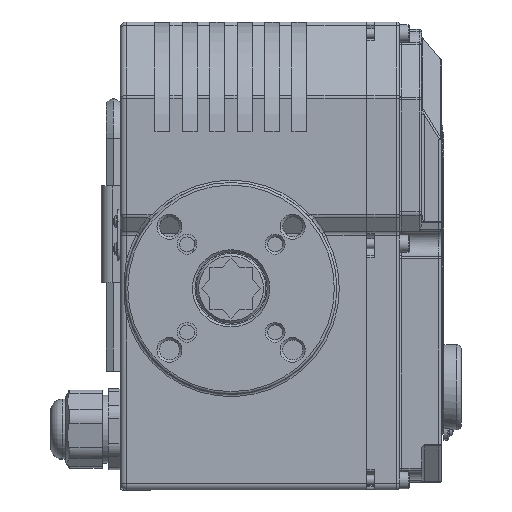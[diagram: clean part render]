
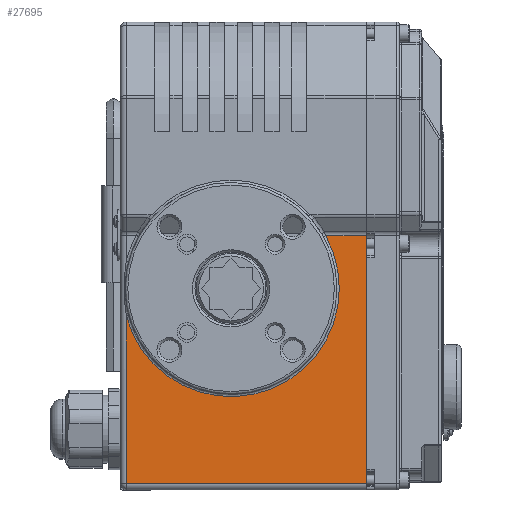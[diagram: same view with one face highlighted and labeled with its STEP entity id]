
A CAD part, front view. The second image highlights one B-rep face of the part: STEP entity #27695.
In plain terms, the highlighted planar face has unit normal (0, -1, 0).
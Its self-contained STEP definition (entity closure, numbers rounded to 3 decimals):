
#1262=PLANE('',#29895);
#3369=FACE_OUTER_BOUND('',#4961,.T.);
#4961=EDGE_LOOP('',(#22921,#22922,#22923,#22924,#22925));
#6952=LINE('',#49031,#9019);
#6954=LINE('',#49039,#9021);
#6956=LINE('',#49043,#9023);
#6957=LINE('',#49044,#9024);
#9019=VECTOR('',#35560,10.);
#9021=VECTOR('',#35570,10.);
#9023=VECTOR('',#35574,10.);
#9024=VECTOR('',#35575,10.);
#10240=CIRCLE('',#29781,43.5);
#12465=VERTEX_POINT('',#48299);
#12467=VERTEX_POINT('',#48319);
#12623=VERTEX_POINT('',#49028);
#12624=VERTEX_POINT('',#49030);
#12627=VERTEX_POINT('',#49042);
#16017=EDGE_CURVE('',#12467,#12465,#10240,.T.);
#16219=EDGE_CURVE('',#12623,#12624,#6952,.T.);
#16224=EDGE_CURVE('',#12465,#12623,#6954,.T.);
#16226=EDGE_CURVE('',#12627,#12467,#6956,.T.);
#16227=EDGE_CURVE('',#12624,#12627,#6957,.T.);
#22921=ORIENTED_EDGE('',*,*,#16017,.F.);
#22922=ORIENTED_EDGE('',*,*,#16226,.F.);
#22923=ORIENTED_EDGE('',*,*,#16227,.F.);
#22924=ORIENTED_EDGE('',*,*,#16219,.F.);
#22925=ORIENTED_EDGE('',*,*,#16224,.F.);
#27695=ADVANCED_FACE('',(#3369),#1262,.T.);
#29781=AXIS2_PLACEMENT_3D('',#48321,#35238,#35239);
#29895=AXIS2_PLACEMENT_3D('',#49041,#35572,#35573);
#35238=DIRECTION('center_axis',(0.,-1.,0.));
#35239=DIRECTION('ref_axis',(0.326,0.,-0.945));
#35560=DIRECTION('',(0.,0.,-1.));
#35570=DIRECTION('',(1.,0.,0.));
#35572=DIRECTION('center_axis',(0.,-1.,0.));
#35573=DIRECTION('ref_axis',(0.,0.,-1.));
#35574=DIRECTION('',(0.,0.,1.));
#35575=DIRECTION('',(-1.,0.,0.));
#48299=CARTESIAN_POINT('',(37.981,-40.,21.207));
#48319=CARTESIAN_POINT('',(-42.073,-40.,-11.049));
#48321=CARTESIAN_POINT('Origin',(0.,-40.,0.));
#49028=CARTESIAN_POINT('',(54.427,-40.,21.207));
#49030=CARTESIAN_POINT('',(54.427,-40.,-78.5));
#49031=CARTESIAN_POINT('',(54.427,-40.,22.009));
#49039=CARTESIAN_POINT('',(-44.573,-40.,21.207));
#49041=CARTESIAN_POINT('Origin',(-44.573,-40.,22.009));
#49042=CARTESIAN_POINT('',(-42.073,-40.,-78.5));
#49043=CARTESIAN_POINT('',(-42.073,-40.,17.504));
#49044=CARTESIAN_POINT('',(-44.573,-40.,-78.5));
